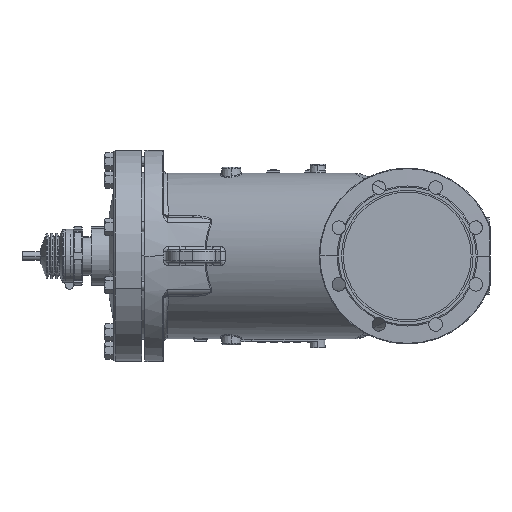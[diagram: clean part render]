
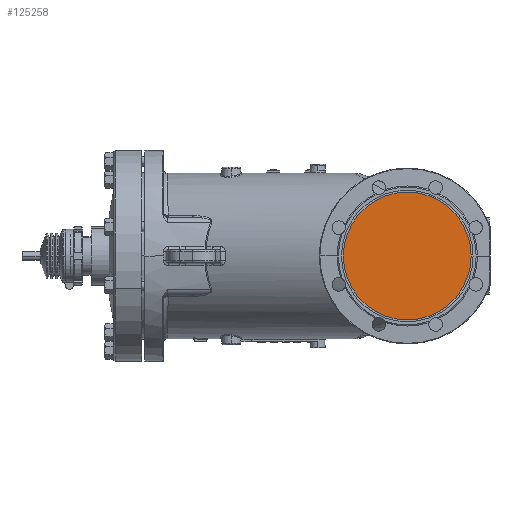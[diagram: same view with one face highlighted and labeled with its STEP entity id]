
A CAD part, front view. The second image highlights one B-rep face of the part: STEP entity #125258.
In plain terms, the highlighted planar face has unit normal (0, -1, 0).
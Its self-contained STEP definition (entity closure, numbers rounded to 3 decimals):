
#55401=CARTESIAN_POINT('',(0.,-293.,0.));
#55402=DIRECTION('',(0.,-1.,0.));
#55403=DIRECTION('',(-1.,0.,0.));
#55404=AXIS2_PLACEMENT_3D('',#55401,#55402,#55403);
#55406=CARTESIAN_POINT('',(0.,-293.,0.));
#55407=DIRECTION('',(0.,1.,0.));
#55408=DIRECTION('',(-1.,0.,0.));
#55409=AXIS2_PLACEMENT_3D('',#55406,#55407,#55408);
#61204=CARTESIAN_POINT('',(-103.5,-293.,0.));
#61205=CARTESIAN_POINT('',(103.5,-293.,0.));
#61206=VERTEX_POINT('',#61204);
#61207=VERTEX_POINT('',#61205);
#125249=CARTESIAN_POINT('',(0.,-293.,0.));
#125250=DIRECTION('',(0.,1.,0.));
#125251=DIRECTION('',(1.,0.,0.));
#125252=AXIS2_PLACEMENT_3D('',#125249,#125250,#125251);
#125253=PLANE('',#125252);
#125254=ORIENTED_EDGE('',*,*,#125243,.F.);
#125255=ORIENTED_EDGE('',*,*,#125229,.T.);
#125256=EDGE_LOOP('',(#125254,#125255));
#125257=FACE_OUTER_BOUND('',#125256,.F.);
#125258=ADVANCED_FACE('',(#125257),#125253,.F.);
#55405=CIRCLE('',#55404,103.5);
#55410=CIRCLE('',#55409,103.5);
#125229=EDGE_CURVE('',#61206,#61207,#55410,.T.);
#125243=EDGE_CURVE('',#61206,#61207,#55405,.T.);
